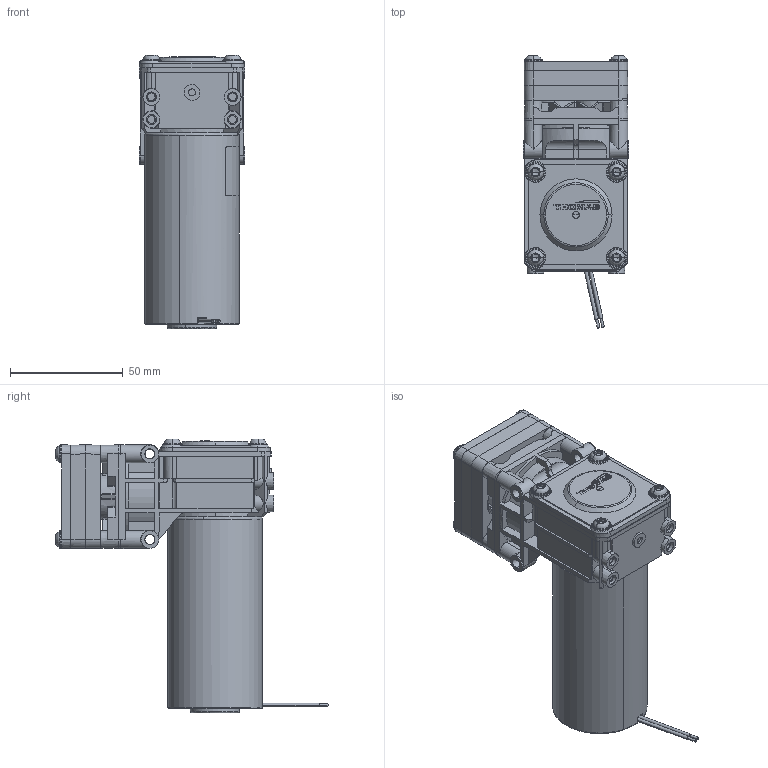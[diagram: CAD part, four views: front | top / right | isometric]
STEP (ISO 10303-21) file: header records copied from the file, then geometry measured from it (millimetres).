
FILE_DESCRIPTION (( 'STEP AP214' ), '1' );
FILE_NAME ('16100000-18_Kishan.STEP', '2019-08-29T05:55:14', ( '' ), ( '' ), 'SwSTEP 2.0', 'SolidWorks 2018', '' );
FILE_SCHEMA (( 'AUTOMOTIVE_DESIGN' ));
Length unit declared in the file: millimetre
Products named in the file (1): 16100000-18_Kishan
Bounding box: 47 x 120.81 x 121.6 mm (x, y, z)
Volume: 261082 mm3; surface area: 42140.9 mm2
Topology: 1 solids, 9 shells, 1499 faces, 4177 edges, 2754 vertices
Faces by surface type: plane 882, cylinder 373, cone 118, bspline 56, torus 50, sphere 20
Entity records: 50170 total; most frequent: CARTESIAN_POINT 12656, ORIENTED_EDGE 8322, DIRECTION 7228, EDGE_CURVE 4161, VERTEX_POINT 2754, VECTOR 2684, LINE 2684, AXIS2_PLACEMENT_3D 2272
